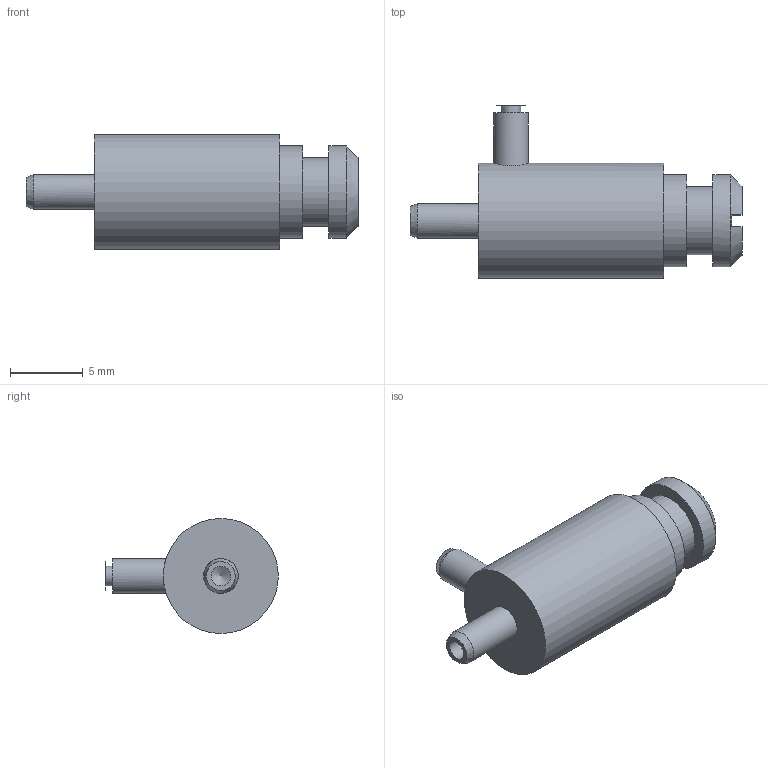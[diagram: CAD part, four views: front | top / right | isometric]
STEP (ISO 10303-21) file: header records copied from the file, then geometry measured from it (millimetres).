
FILE_DESCRIPTION(/* description */ ('SolidWorks IGES file using NURBS representation for surfaces '),/* implementation_level */ '2;1');
FILE_NAME(/* name */ 'K:\Normteile INVENTOR\Air-Logic\Needle Valves\F-2822-40-SSV.IGS.ipt.stp',/* time_stamp */ '2020-05-27T10:42:35+02:00',/* author */ ('amarsh'),/* organization */ (''),/* preprocessor_version */ 'ST-DEVELOPER v18',/* originating_system */ 'Autodesk Inventor 2020',/* authorisation */ '');
FILE_SCHEMA (('AUTOMOTIVE_DESIGN { 1 0 10303 214 3 1 1 }'));
Length unit declared in the file: millimetre
Products named in the file (1): F-2822-40-SSV.IGS
Bounding box: 22.85 x 11.89 x 7.92 mm (x, y, z)
Volume: 785.3 mm3; surface area: 688.7 mm2
Topology: 2 solids, 2 shells, 25 faces, 69 edges, 52 vertices
Faces by surface type: plane 12, cylinder 8, cone 5
Full cylindrical faces by diameter (mm): 1.35 x2, 2.39 x2, 4.7 x1, 6.35 x2, 7.92 x1
Entity records: 908 total; most frequent: CARTESIAN_POINT 188, DIRECTION 157, ORIENTED_EDGE 134, AXIS2_PLACEMENT_3D 70, EDGE_CURVE 67, VERTEX_POINT 52, CIRCLE 44, EDGE_LOOP 31
